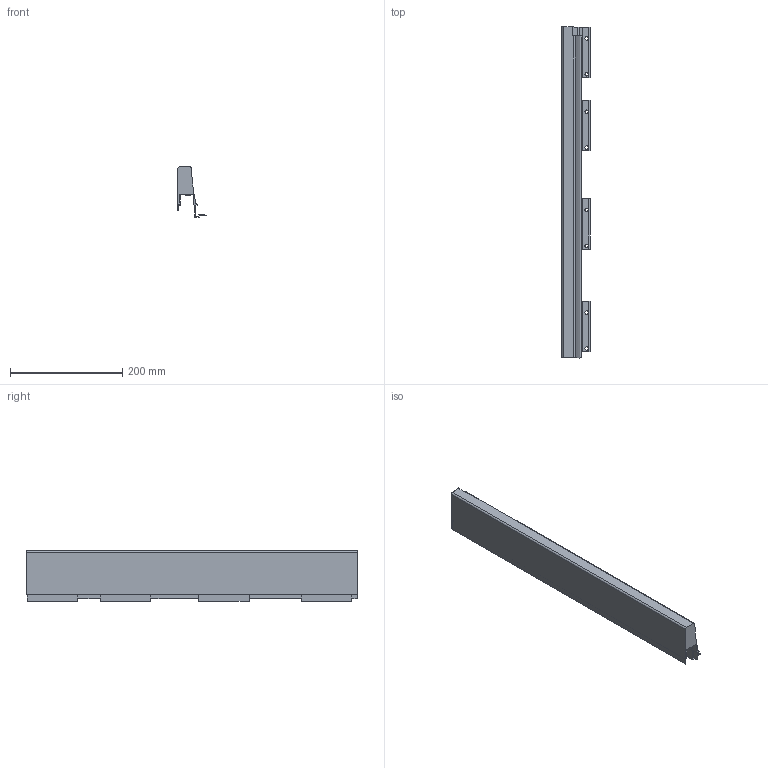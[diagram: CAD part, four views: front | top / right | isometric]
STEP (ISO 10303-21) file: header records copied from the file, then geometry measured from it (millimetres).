
FILE_DESCRIPTION (( 'STEP AP214' ), '1' );
FILE_NAME ('_XP Agantis Dekorseite H95 NL600 LI.step', '2010-07-08T06:05:37', ( 'grass' ), ( '' ), 'SwSTEP 2.0', 'SolidWorks 2010', '' );
FILE_SCHEMA (( 'AUTOMOTIVE_DESIGN' ));
Length unit declared in the file: millimetre
Products named in the file (1): _XP Agantis Dekorseite H95 NL600 LI
Bounding box: 50.01 x 591.5 x 89.5 mm (x, y, z)
Volume: 842253.7 mm3; surface area: 199996.8 mm2
Topology: 1 solids, 1 shells, 158 faces, 466 edges, 303 vertices
Faces by surface type: plane 127, cylinder 31
Entity records: 5271 total; most frequent: ORIENTED_EDGE 932, CARTESIAN_POINT 928, DIRECTION 847, EDGE_CURVE 466, LINE 403, VECTOR 403, VERTEX_POINT 303, AXIS2_PLACEMENT_3D 222
